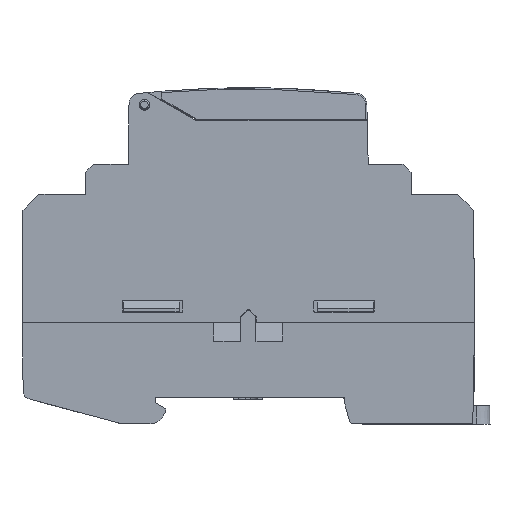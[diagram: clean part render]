
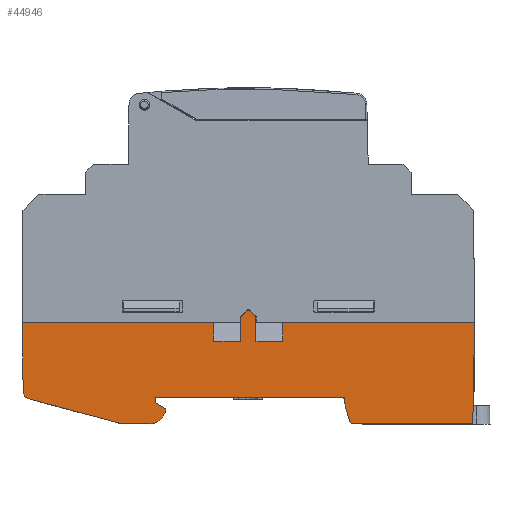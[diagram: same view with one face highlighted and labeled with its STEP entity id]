
A CAD part, left-side view. The second image highlights one B-rep face of the part: STEP entity #44946.
In plain terms, the highlighted planar face has unit normal (-1, 0, 0) as drawn and (0, 0, -1) by its records, which use the part's own axes.
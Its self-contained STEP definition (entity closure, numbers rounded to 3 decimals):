
#30942=DIRECTION('',(-0.707,-0.707,0.));
#30943=VECTOR('',#30942,1.344);
#30944=CARTESIAN_POINT('',(-0.354,2.146,-17.9));
#30945=LINE('',#30944,#30943);
#30949=DIRECTION('',(0.,-1.,0.));
#30950=VECTOR('',#30949,4.343);
#30951=CARTESIAN_POINT('',(-1.45,0.843,-17.9));
#30952=LINE('',#30951,#30950);
#30956=DIRECTION('',(1.,0.,0.));
#30957=VECTOR('',#30956,5.05);
#30958=CARTESIAN_POINT('',(-6.5,-3.5,-17.9));
#30959=LINE('',#30958,#30957);
#30963=DIRECTION('',(0.,-1.,0.));
#30964=VECTOR('',#30963,3.5);
#30965=CARTESIAN_POINT('',(-6.5,0.,-17.9));
#30966=LINE('',#30965,#30964);
#30970=DIRECTION('',(-1.,0.,0.));
#30971=VECTOR('',#30970,36.);
#30972=CARTESIAN_POINT('',(-6.5,0.,-17.9));
#30973=LINE('',#30972,#30971);
#30977=DIRECTION('',(0.259,0.966,0.));
#30978=VECTOR('',#30977,3.08);
#30979=CARTESIAN_POINT('',(-18.92,-18.259,-17.9));
#30980=LINE('',#30979,#30978);
#30984=DIRECTION('',(0.017,1.,0.));
#30985=VECTOR('',#30984,1.284);
#30986=CARTESIAN_POINT('',(-18.122,-15.284,-17.9));
#30987=LINE('',#30986,#30985);
#30991=DIRECTION('',(1.,0.,0.));
#30992=VECTOR('',#30991,35.6);
#30993=CARTESIAN_POINT('',(-18.1,-14.,-17.9));
#30994=LINE('',#30993,#30992);
#30998=DIRECTION('',(0.,-1.,0.));
#30999=VECTOR('',#30998,1.05);
#31000=CARTESIAN_POINT('',(17.5,-14.,-17.9));
#31001=LINE('',#31000,#30999);
#31005=DIRECTION('',(-0.866,-0.5,0.));
#31006=VECTOR('',#31005,2.309);
#31007=CARTESIAN_POINT('',(17.5,-15.05,-17.9));
#31008=LINE('',#31007,#31006);
#31012=DIRECTION('',(0.,-1.,0.));
#31013=VECTOR('',#31012,0.5);
#31014=CARTESIAN_POINT('',(15.5,-16.205,-17.9));
#31015=LINE('',#31014,#31013);
#31019=DIRECTION('',(0.5,-0.866,0.));
#31020=VECTOR('',#31019,1.207);
#31021=CARTESIAN_POINT('',(15.5,-16.705,-17.9));
#31022=LINE('',#31021,#31020);
#31026=CARTESIAN_POINT('',(18.269,-16.5,-17.9));
#31027=DIRECTION('',(0.,0.,1.));
#31028=DIRECTION('',(-0.866,-0.5,0.));
#31029=AXIS2_PLACEMENT_3D('',#31026,#31027,#31028);
#31034=DIRECTION('',(1.,0.,0.));
#31035=VECTOR('',#31034,5.374);
#31036=CARTESIAN_POINT('',(18.269,-19.,-17.9));
#31037=LINE('',#31036,#31035);
#31041=DIRECTION('',(0.966,0.259,0.));
#31042=VECTOR('',#31041,17.737);
#31043=CARTESIAN_POINT('',(24.03,-18.949,-17.9));
#31044=LINE('',#31043,#31042);
#31048=DIRECTION('',(0.017,1.,0.));
#31049=VECTOR('',#31048,12.938);
#31050=CARTESIAN_POINT('',(42.274,-12.936,-17.9));
#31051=LINE('',#31050,#31049);
#31055=DIRECTION('',(-1.,0.,0.));
#31056=VECTOR('',#31055,36.);
#31057=CARTESIAN_POINT('',(42.5,0.,-17.9));
#31058=LINE('',#31057,#31056);
#31062=DIRECTION('',(0.,-1.,0.));
#31063=VECTOR('',#31062,3.5);
#31064=CARTESIAN_POINT('',(6.5,0.,-17.9));
#31065=LINE('',#31064,#31063);
#31069=DIRECTION('',(1.,0.,0.));
#31070=VECTOR('',#31069,5.05);
#31071=CARTESIAN_POINT('',(1.45,-3.5,-17.9));
#31072=LINE('',#31071,#31070);
#31076=DIRECTION('',(0.,1.,0.));
#31077=VECTOR('',#31076,4.343);
#31078=CARTESIAN_POINT('',(1.45,-3.5,-17.9));
#31079=LINE('',#31078,#31077);
#31083=DIRECTION('',(-0.707,0.707,0.));
#31084=VECTOR('',#31083,1.344);
#31085=CARTESIAN_POINT('',(1.304,1.196,-17.9));
#31086=LINE('',#31085,#31084);
#31097=CARTESIAN_POINT('',(0.,1.793,-17.9));
#31098=DIRECTION('',(0.,0.,-1.));
#31099=DIRECTION('',(-0.707,0.707,0.));
#31100=AXIS2_PLACEMENT_3D('',#31097,#31098,#31099);
#31358=CARTESIAN_POINT('',(0.95,0.843,-17.9));
#31359=DIRECTION('',(0.,0.,-1.));
#31360=DIRECTION('',(0.707,0.707,0.));
#31361=AXIS2_PLACEMENT_3D('',#31358,#31359,#31360);
#31402=CARTESIAN_POINT('',(-0.95,0.843,-17.9));
#31403=DIRECTION('',(0.,0.,-1.));
#31404=DIRECTION('',(-1.,0.,0.));
#31405=AXIS2_PLACEMENT_3D('',#31402,#31403,#31404);
#33923=CARTESIAN_POINT('',(40.774,-12.909,-17.9));
#33924=DIRECTION('',(0.,0.,-1.));
#33925=DIRECTION('',(1.,-0.017,0.));
#33926=AXIS2_PLACEMENT_3D('',#33923,#33924,#33925);
#34505=CARTESIAN_POINT('',(23.642,-17.5,-17.9));
#34506=DIRECTION('',(0.,0.,-1.));
#34507=DIRECTION('',(0.259,-0.966,0.));
#34508=AXIS2_PLACEMENT_3D('',#34505,#34506,#34507);
#35431=DIRECTION('',(-0.017,1.,0.));
#35432=VECTOR('',#35431,19.003);
#35433=CARTESIAN_POINT('',(-42.168,-19.,-17.9));
#35434=LINE('',#35433,#35432);
#35556=DIRECTION('',(-1.,0.,0.));
#35557=VECTOR('',#35556,22.283);
#35558=CARTESIAN_POINT('',(-19.886,-19.,-17.9));
#35559=LINE('',#35558,#35557);
#36292=CARTESIAN_POINT('',(-19.886,-18.,-17.9));
#36293=DIRECTION('',(0.,0.,-1.));
#36294=DIRECTION('',(0.966,-0.259,0.));
#36295=AXIS2_PLACEMENT_3D('',#36292,#36293,#36294);
#43218=CARTESIAN_POINT('',(15.5,-16.205,-17.9));
#43219=CARTESIAN_POINT('',(15.5,-16.705,-17.9));
#43220=VERTEX_POINT('',#43218);
#43221=VERTEX_POINT('',#43219);
#43242=CARTESIAN_POINT('',(6.5,0.,-17.9));
#43243=CARTESIAN_POINT('',(6.5,-3.5,-17.9));
#43244=VERTEX_POINT('',#43242);
#43245=VERTEX_POINT('',#43243);
#43246=CARTESIAN_POINT('',(-6.5,0.,-17.9));
#43247=CARTESIAN_POINT('',(-6.5,-3.5,-17.9));
#43248=VERTEX_POINT('',#43246);
#43249=VERTEX_POINT('',#43247);
#43266=CARTESIAN_POINT('',(17.5,-14.,-17.9));
#43267=CARTESIAN_POINT('',(17.5,-15.05,-17.9));
#43268=VERTEX_POINT('',#43266);
#43269=VERTEX_POINT('',#43267);
#43290=CARTESIAN_POINT('',(16.104,-17.75,-17.9));
#43291=CARTESIAN_POINT('',(18.269,-19.,-17.9));
#43292=VERTEX_POINT('',#43290);
#43293=VERTEX_POINT('',#43291);
#43306=CARTESIAN_POINT('',(42.5,0.,-17.9));
#43307=VERTEX_POINT('',#43306);
#43311=CARTESIAN_POINT('',(42.274,-12.936,-17.9));
#43313=VERTEX_POINT('',#43311);
#43314=CARTESIAN_POINT('',(41.163,-14.358,-17.9));
#43315=VERTEX_POINT('',#43314);
#43319=CARTESIAN_POINT('',(24.03,-18.949,-17.9));
#43321=VERTEX_POINT('',#43319);
#43322=CARTESIAN_POINT('',(23.642,-19.,-17.9));
#43323=VERTEX_POINT('',#43322);
#43326=CARTESIAN_POINT('',(-18.122,-15.284,-17.9));
#43327=CARTESIAN_POINT('',(-18.1,-14.,-17.9));
#43328=VERTEX_POINT('',#43326);
#43329=VERTEX_POINT('',#43327);
#43406=CARTESIAN_POINT('',(-42.5,0.,-17.9));
#43407=VERTEX_POINT('',#43406);
#43732=CARTESIAN_POINT('',(-18.92,-18.259,-17.9));
#43734=VERTEX_POINT('',#43732);
#43735=CARTESIAN_POINT('',(-19.886,-19.,-17.9));
#43736=VERTEX_POINT('',#43735);
#43993=CARTESIAN_POINT('',(-42.168,-19.,-17.9));
#43994=VERTEX_POINT('',#43993);
#44046=CARTESIAN_POINT('',(-1.45,-3.5,-17.9));
#44048=VERTEX_POINT('',#44046);
#44049=CARTESIAN_POINT('',(1.45,-3.5,-17.9));
#44050=VERTEX_POINT('',#44049);
#44070=CARTESIAN_POINT('',(-0.354,2.146,-17.9));
#44072=VERTEX_POINT('',#44070);
#44073=CARTESIAN_POINT('',(0.354,2.146,-17.9));
#44074=VERTEX_POINT('',#44073);
#44077=CARTESIAN_POINT('',(1.304,1.196,-17.9));
#44078=VERTEX_POINT('',#44077);
#44079=CARTESIAN_POINT('',(-1.304,1.196,-17.9));
#44080=VERTEX_POINT('',#44079);
#44101=CARTESIAN_POINT('',(1.45,0.843,-17.9));
#44102=VERTEX_POINT('',#44101);
#44106=CARTESIAN_POINT('',(-1.45,0.843,-17.9));
#44108=VERTEX_POINT('',#44106);
#44881=CARTESIAN_POINT('',(0.,0.,-17.9));
#44882=DIRECTION('',(0.,0.,1.));
#44883=DIRECTION('',(1.,0.,0.));
#44884=AXIS2_PLACEMENT_3D('',#44881,#44882,#44883);
#44885=PLANE('',#44884);
#44887=ORIENTED_EDGE('',*,*,#44886,.F.);
#44889=ORIENTED_EDGE('',*,*,#44888,.T.);
#44891=ORIENTED_EDGE('',*,*,#44890,.F.);
#44893=ORIENTED_EDGE('',*,*,#44892,.T.);
#44895=ORIENTED_EDGE('',*,*,#44894,.F.);
#44897=ORIENTED_EDGE('',*,*,#44896,.F.);
#44899=ORIENTED_EDGE('',*,*,#44898,.T.);
#44901=ORIENTED_EDGE('',*,*,#44900,.F.);
#44903=ORIENTED_EDGE('',*,*,#44902,.F.);
#44905=ORIENTED_EDGE('',*,*,#44904,.F.);
#44907=ORIENTED_EDGE('',*,*,#44906,.T.);
#44909=ORIENTED_EDGE('',*,*,#44908,.T.);
#44911=ORIENTED_EDGE('',*,*,#44910,.T.);
#44913=ORIENTED_EDGE('',*,*,#44912,.T.);
#44915=ORIENTED_EDGE('',*,*,#44914,.T.);
#44917=ORIENTED_EDGE('',*,*,#44916,.T.);
#44919=ORIENTED_EDGE('',*,*,#44918,.T.);
#44921=ORIENTED_EDGE('',*,*,#44920,.T.);
#44923=ORIENTED_EDGE('',*,*,#44922,.T.);
#44925=ORIENTED_EDGE('',*,*,#44924,.F.);
#44927=ORIENTED_EDGE('',*,*,#44926,.T.);
#44929=ORIENTED_EDGE('',*,*,#44928,.F.);
#44931=ORIENTED_EDGE('',*,*,#44930,.T.);
#44933=ORIENTED_EDGE('',*,*,#44932,.T.);
#44935=ORIENTED_EDGE('',*,*,#44934,.T.);
#44937=ORIENTED_EDGE('',*,*,#44936,.F.);
#44939=ORIENTED_EDGE('',*,*,#44938,.T.);
#44941=ORIENTED_EDGE('',*,*,#44940,.F.);
#44943=ORIENTED_EDGE('',*,*,#44942,.T.);
#44944=EDGE_LOOP('',(#44887,#44889,#44891,#44893,#44895,#44897,#44899,#44901,
#44903,#44905,#44907,#44909,#44911,#44913,#44915,#44917,#44919,#44921,#44923,
#44925,#44927,#44929,#44931,#44933,#44935,#44937,#44939,#44941,#44943));
#44945=FACE_OUTER_BOUND('',#44944,.F.);
#31030=CIRCLE('',#31029,2.5);
#31101=CIRCLE('',#31100,0.5);
#31362=CIRCLE('',#31361,0.5);
#31406=CIRCLE('',#31405,0.5);
#33927=CIRCLE('',#33926,1.5);
#34509=CIRCLE('',#34508,1.5);
#36296=CIRCLE('',#36295,1.);
#44886=EDGE_CURVE('',#44072,#44074,#31101,.T.);
#44888=EDGE_CURVE('',#44072,#44080,#30945,.T.);
#44890=EDGE_CURVE('',#44108,#44080,#31406,.T.);
#44892=EDGE_CURVE('',#44108,#44048,#30952,.T.);
#44894=EDGE_CURVE('',#43249,#44048,#30959,.T.);
#44896=EDGE_CURVE('',#43248,#43249,#30966,.T.);
#44898=EDGE_CURVE('',#43248,#43407,#30973,.T.);
#44900=EDGE_CURVE('',#43994,#43407,#35434,.T.);
#44902=EDGE_CURVE('',#43736,#43994,#35559,.T.);
#44904=EDGE_CURVE('',#43734,#43736,#36296,.T.);
#44906=EDGE_CURVE('',#43734,#43328,#30980,.T.);
#44908=EDGE_CURVE('',#43328,#43329,#30987,.T.);
#44910=EDGE_CURVE('',#43329,#43268,#30994,.T.);
#44912=EDGE_CURVE('',#43268,#43269,#31001,.T.);
#44914=EDGE_CURVE('',#43269,#43220,#31008,.T.);
#44916=EDGE_CURVE('',#43220,#43221,#31015,.T.);
#44918=EDGE_CURVE('',#43221,#43292,#31022,.T.);
#44920=EDGE_CURVE('',#43292,#43293,#31030,.T.);
#44922=EDGE_CURVE('',#43293,#43323,#31037,.T.);
#44924=EDGE_CURVE('',#43321,#43323,#34509,.T.);
#44926=EDGE_CURVE('',#43321,#43315,#31044,.T.);
#44928=EDGE_CURVE('',#43313,#43315,#33927,.T.);
#44930=EDGE_CURVE('',#43313,#43307,#31051,.T.);
#44932=EDGE_CURVE('',#43307,#43244,#31058,.T.);
#44934=EDGE_CURVE('',#43244,#43245,#31065,.T.);
#44936=EDGE_CURVE('',#44050,#43245,#31072,.T.);
#44938=EDGE_CURVE('',#44050,#44102,#31079,.T.);
#44940=EDGE_CURVE('',#44078,#44102,#31362,.T.);
#44942=EDGE_CURVE('',#44078,#44074,#31086,.T.);
#44946=ADVANCED_FACE('',(#44945),#44885,.F.);
